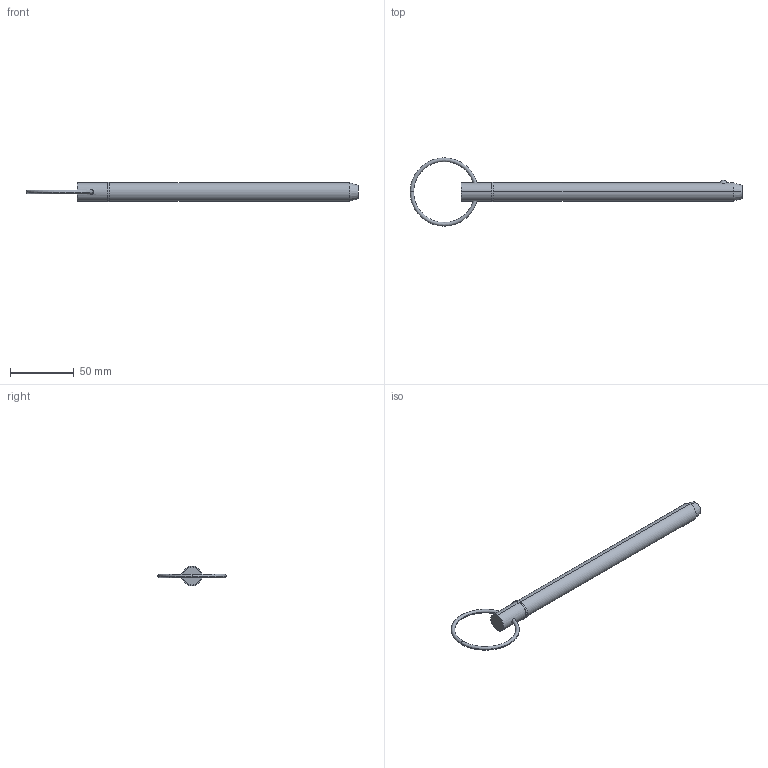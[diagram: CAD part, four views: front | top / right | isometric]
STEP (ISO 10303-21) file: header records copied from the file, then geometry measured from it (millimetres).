
FILE_DESCRIPTION (( 'STEP AP203' ), '1' );
FILE_NAME ('33014.W5670.step', '2024-11-04T08:33:02', ( '' ), ( '' ), 'SwSTEP 2.0', 'SolidWorks 2019', '' );
FILE_SCHEMA (( 'CONFIG_CONTROL_DESIGN' ));
Length unit declared in the file: millimetre
Products named in the file (3): Part1_33014.W5670; 33014.W5670; Part2_33014.W5670
Assembly tree (2 placements, depth 2):
  33014.W5670
    Part1_33014.W5670
    Part2_33014.W5670
Bounding box: 261.16 x 53.66 x 15.72 mm (x, y, z)
Volume: 36148.6 mm3; surface area: 11803.3 mm2
Topology: 2 solids, 2 shells, 22 faces, 43 edges, 26 vertices
Faces by surface type: torus 8, cylinder 6, plane 4, sphere 2, cone 2
Entity records: 1039 total; most frequent: CARTESIAN_POINT 262, DIRECTION 120, ORIENTED_EDGE 86, AXIS2_PLACEMENT_3D 56, EDGE_CURVE 43, CIRCLE 29, EDGE_LOOP 27, VERTEX_POINT 26
